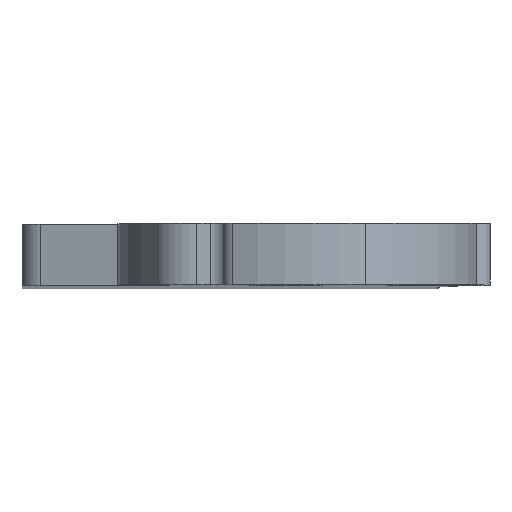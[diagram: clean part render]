
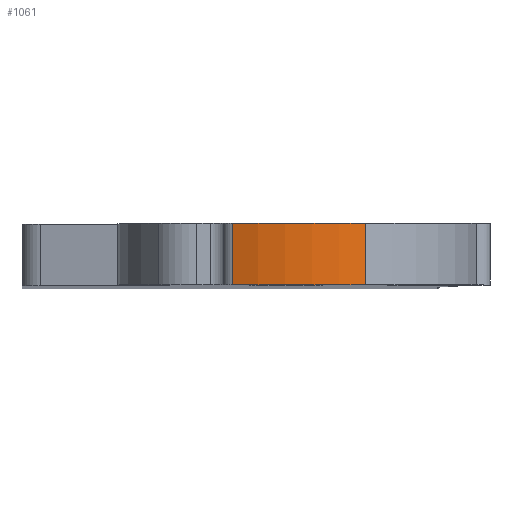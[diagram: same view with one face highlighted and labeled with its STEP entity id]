
A CAD part, top view. The second image highlights one B-rep face of the part: STEP entity #1061.
In plain terms, the highlighted cylindrical face has radius 6.5 mm (diameter 13 mm), a partial arc.
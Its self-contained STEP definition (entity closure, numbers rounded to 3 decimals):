
#224=CARTESIAN_POINT('',(12.339,6.5,53.864));
#225=DIRECTION('',(0.,-1.,0.));
#226=DIRECTION('',(0.325,0.,0.946));
#227=AXIS2_PLACEMENT_3D('',#224,#225,#226);
#344=CARTESIAN_POINT('',(12.339,4.4,53.864));
#345=DIRECTION('',(0.,-1.,0.));
#346=DIRECTION('',(0.325,0.,0.946));
#347=AXIS2_PLACEMENT_3D('',#344,#345,#346);
#487=DIRECTION('',(0.,-1.,0.));
#488=VECTOR('',#487,2.1);
#489=CARTESIAN_POINT('',(9.896,6.5,59.887));
#490=LINE('',#489,#488);
#491=DIRECTION('',(0.,-1.,0.));
#492=VECTOR('',#491,2.1);
#493=CARTESIAN_POINT('',(14.451,6.5,60.011));
#494=LINE('',#493,#492);
#609=CARTESIAN_POINT('',(14.451,6.5,60.011));
#610=VERTEX_POINT('',#609);
#611=CARTESIAN_POINT('',(9.896,6.5,59.887));
#612=VERTEX_POINT('',#611);
#663=CARTESIAN_POINT('',(14.451,4.4,60.011));
#664=VERTEX_POINT('',#663);
#665=CARTESIAN_POINT('',(9.896,4.4,59.887));
#666=VERTEX_POINT('',#665);
#1049=CARTESIAN_POINT('',(12.339,6.5,53.864));
#1050=DIRECTION('',(0.,-1.,0.));
#1051=DIRECTION('',(0.,0.,-1.));
#1052=AXIS2_PLACEMENT_3D('',#1049,#1050,#1051);
#1053=CYLINDRICAL_SURFACE('',#1052,6.5);
#1054=ORIENTED_EDGE('',*,*,#768,.F.);
#1056=ORIENTED_EDGE('',*,*,#1055,.T.);
#1057=ORIENTED_EDGE('',*,*,#854,.T.);
#1058=ORIENTED_EDGE('',*,*,#1042,.F.);
#1059=EDGE_LOOP('',(#1054,#1056,#1057,#1058));
#1060=FACE_OUTER_BOUND('',#1059,.F.);
#1061=ADVANCED_FACE('',(#1060),#1053,.T.);
#228=CIRCLE('',#227,6.5);
#348=CIRCLE('',#347,6.5);
#768=EDGE_CURVE('',#610,#612,#228,.T.);
#854=EDGE_CURVE('',#664,#666,#348,.T.);
#1042=EDGE_CURVE('',#612,#666,#490,.T.);
#1055=EDGE_CURVE('',#610,#664,#494,.T.);
